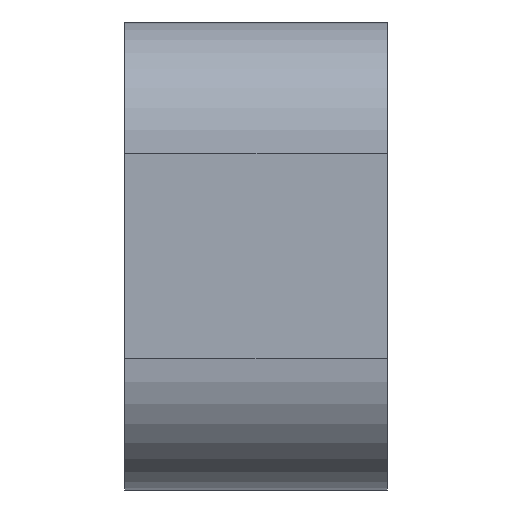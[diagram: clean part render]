
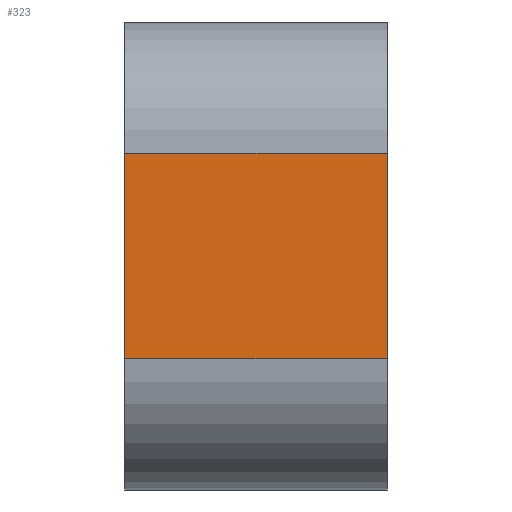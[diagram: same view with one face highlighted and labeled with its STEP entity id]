
A CAD part, front view. The second image highlights one B-rep face of the part: STEP entity #323.
In plain terms, the highlighted planar face has unit normal (0, -1, 0).
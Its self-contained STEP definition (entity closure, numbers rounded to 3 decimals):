
#21 = EDGE_CURVE('',#22,#24,#26,.T.);
#22 = VERTEX_POINT('',#23);
#23 = CARTESIAN_POINT('',(-7.,-59.4,-5.5));
#24 = VERTEX_POINT('',#25);
#25 = CARTESIAN_POINT('',(-7.,-59.4,5.5));
#26 = SURFACE_CURVE('',#27,(#31,#43),.PCURVE_S1.);
#27 = LINE('',#28,#29);
#28 = CARTESIAN_POINT('',(-7.,-59.4,-12.5));
#29 = VECTOR('',#30,1.);
#30 = DIRECTION('',(0.,0.,1.));
#31 = PCURVE('',#32,#37);
#32 = PLANE('',#33);
#33 = AXIS2_PLACEMENT_3D('',#34,#35,#36);
#34 = CARTESIAN_POINT('',(-7.,-59.4,-12.5));
#35 = DIRECTION('',(1.,0.,-0.));
#36 = DIRECTION('',(0.,0.,1.));
#37 = DEFINITIONAL_REPRESENTATION('',(#38),#42);
#38 = LINE('',#39,#40);
#39 = CARTESIAN_POINT('',(0.,0.));
#40 = VECTOR('',#41,1.);
#41 = DIRECTION('',(1.,0.));
#42 = ( GEOMETRIC_REPRESENTATION_CONTEXT(2) 
PARAMETRIC_REPRESENTATION_CONTEXT() REPRESENTATION_CONTEXT('2D SPACE',''
  ) );
#43 = PCURVE('',#44,#49);
#44 = PLANE('',#45);
#45 = AXIS2_PLACEMENT_3D('',#46,#47,#48);
#46 = CARTESIAN_POINT('',(-7.,-59.4,-12.5));
#47 = DIRECTION('',(-0.,1.,0.));
#48 = DIRECTION('',(0.,0.,1.));
#49 = DEFINITIONAL_REPRESENTATION('',(#50),#54);
#50 = LINE('',#51,#52);
#51 = CARTESIAN_POINT('',(0.,0.));
#52 = VECTOR('',#53,1.);
#53 = DIRECTION('',(1.,0.));
#54 = ( GEOMETRIC_REPRESENTATION_CONTEXT(2) 
PARAMETRIC_REPRESENTATION_CONTEXT() REPRESENTATION_CONTEXT('2D SPACE',''
  ) );
#73 = CYLINDRICAL_SURFACE('',#74,7.);
#74 = AXIS2_PLACEMENT_3D('',#75,#76,#77);
#75 = CARTESIAN_POINT('',(-7.,-52.4,-5.5));
#76 = DIRECTION('',(1.,0.,-0.));
#77 = DIRECTION('',(0.,-1.,0.));
#250 = CYLINDRICAL_SURFACE('',#251,7.);
#251 = AXIS2_PLACEMENT_3D('',#252,#253,#254);
#252 = CARTESIAN_POINT('',(-7.,-52.4,5.5));
#253 = DIRECTION('',(1.,0.,-0.));
#254 = DIRECTION('',(0.,-1.,0.));
#323 = ADVANCED_FACE('',(#324),#44,.F.);
#324 = FACE_BOUND('',#325,.F.);
#325 = EDGE_LOOP('',(#326,#356,#377,#378));
#326 = ORIENTED_EDGE('',*,*,#327,.F.);
#327 = EDGE_CURVE('',#328,#330,#332,.T.);
#328 = VERTEX_POINT('',#329);
#329 = CARTESIAN_POINT('',(7.,-59.4,-5.5));
#330 = VERTEX_POINT('',#331);
#331 = CARTESIAN_POINT('',(7.,-59.4,5.5));
#332 = SURFACE_CURVE('',#333,(#337,#344),.PCURVE_S1.);
#333 = LINE('',#334,#335);
#334 = CARTESIAN_POINT('',(7.,-59.4,-12.5));
#335 = VECTOR('',#336,1.);
#336 = DIRECTION('',(0.,0.,1.));
#337 = PCURVE('',#44,#338);
#338 = DEFINITIONAL_REPRESENTATION('',(#339),#343);
#339 = LINE('',#340,#341);
#340 = CARTESIAN_POINT('',(0.,14.));
#341 = VECTOR('',#342,1.);
#342 = DIRECTION('',(1.,0.));
#343 = ( GEOMETRIC_REPRESENTATION_CONTEXT(2) 
PARAMETRIC_REPRESENTATION_CONTEXT() REPRESENTATION_CONTEXT('2D SPACE',''
  ) );
#344 = PCURVE('',#345,#350);
#345 = PLANE('',#346);
#346 = AXIS2_PLACEMENT_3D('',#347,#348,#349);
#347 = CARTESIAN_POINT('',(7.,-59.4,-12.5));
#348 = DIRECTION('',(1.,0.,-0.));
#349 = DIRECTION('',(0.,0.,1.));
#350 = DEFINITIONAL_REPRESENTATION('',(#351),#355);
#351 = LINE('',#352,#353);
#352 = CARTESIAN_POINT('',(0.,0.));
#353 = VECTOR('',#354,1.);
#354 = DIRECTION('',(1.,0.));
#355 = ( GEOMETRIC_REPRESENTATION_CONTEXT(2) 
PARAMETRIC_REPRESENTATION_CONTEXT() REPRESENTATION_CONTEXT('2D SPACE',''
  ) );
#356 = ORIENTED_EDGE('',*,*,#357,.F.);
#357 = EDGE_CURVE('',#22,#328,#358,.T.);
#358 = SURFACE_CURVE('',#359,(#363,#370),.PCURVE_S1.);
#359 = LINE('',#360,#361);
#360 = CARTESIAN_POINT('',(-7.,-59.4,-5.5));
#361 = VECTOR('',#362,1.);
#362 = DIRECTION('',(1.,0.,-0.));
#363 = PCURVE('',#44,#364);
#364 = DEFINITIONAL_REPRESENTATION('',(#365),#369);
#365 = LINE('',#366,#367);
#366 = CARTESIAN_POINT('',(7.,0.));
#367 = VECTOR('',#368,1.);
#368 = DIRECTION('',(0.,1.));
#369 = ( GEOMETRIC_REPRESENTATION_CONTEXT(2) 
PARAMETRIC_REPRESENTATION_CONTEXT() REPRESENTATION_CONTEXT('2D SPACE',''
  ) );
#370 = PCURVE('',#73,#371);
#371 = DEFINITIONAL_REPRESENTATION('',(#372),#376);
#372 = LINE('',#373,#374);
#373 = CARTESIAN_POINT('',(0.,0.));
#374 = VECTOR('',#375,1.);
#375 = DIRECTION('',(0.,1.));
#376 = ( GEOMETRIC_REPRESENTATION_CONTEXT(2) 
PARAMETRIC_REPRESENTATION_CONTEXT() REPRESENTATION_CONTEXT('2D SPACE',''
  ) );
#377 = ORIENTED_EDGE('',*,*,#21,.T.);
#378 = ORIENTED_EDGE('',*,*,#379,.T.);
#379 = EDGE_CURVE('',#24,#330,#380,.T.);
#380 = SURFACE_CURVE('',#381,(#385,#392),.PCURVE_S1.);
#381 = LINE('',#382,#383);
#382 = CARTESIAN_POINT('',(-7.,-59.4,5.5));
#383 = VECTOR('',#384,1.);
#384 = DIRECTION('',(1.,0.,-0.));
#385 = PCURVE('',#44,#386);
#386 = DEFINITIONAL_REPRESENTATION('',(#387),#391);
#387 = LINE('',#388,#389);
#388 = CARTESIAN_POINT('',(18.,0.));
#389 = VECTOR('',#390,1.);
#390 = DIRECTION('',(0.,1.));
#391 = ( GEOMETRIC_REPRESENTATION_CONTEXT(2) 
PARAMETRIC_REPRESENTATION_CONTEXT() REPRESENTATION_CONTEXT('2D SPACE',''
  ) );
#392 = PCURVE('',#250,#393);
#393 = DEFINITIONAL_REPRESENTATION('',(#394),#398);
#394 = LINE('',#395,#396);
#395 = CARTESIAN_POINT('',(-0.,0.));
#396 = VECTOR('',#397,1.);
#397 = DIRECTION('',(-0.,1.));
#398 = ( GEOMETRIC_REPRESENTATION_CONTEXT(2) 
PARAMETRIC_REPRESENTATION_CONTEXT() REPRESENTATION_CONTEXT('2D SPACE',''
  ) );
